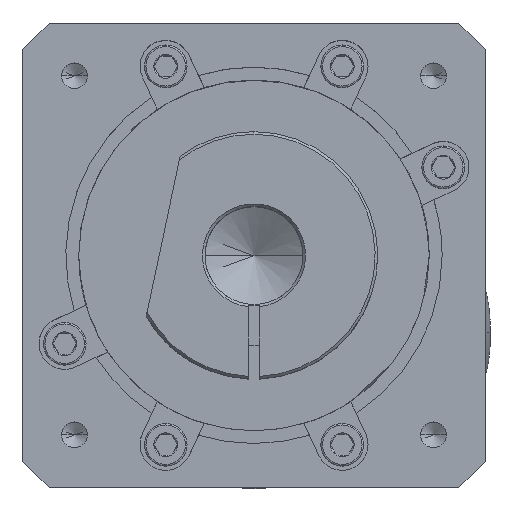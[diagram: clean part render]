
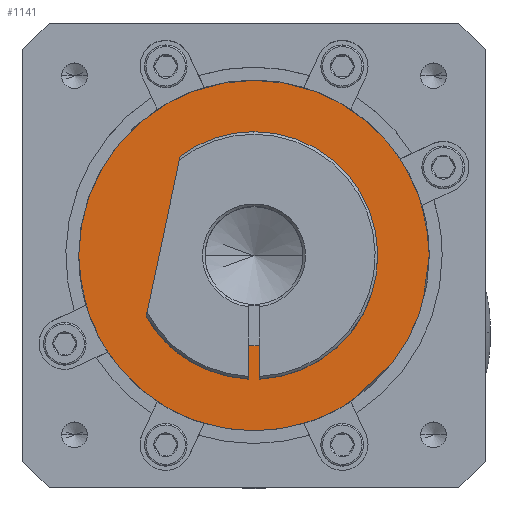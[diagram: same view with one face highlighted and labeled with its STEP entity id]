
A CAD part, top view. The second image highlights one B-rep face of the part: STEP entity #1141.
In plain terms, the highlighted planar face has unit normal (0, 0, 1).
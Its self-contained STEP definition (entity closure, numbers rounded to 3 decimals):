
#1141 = ADVANCED_FACE ( 'NONE', ( #7887, #1623 ), #1558, .T. ) ;
#1343 = CARTESIAN_POINT ( 'NONE',  ( -10.643, 0., 86.29 ) ) ;
#1465 = CARTESIAN_POINT ( 'NONE',  ( -10.643, 0., 86.29 ) ) ;
#1544 = VERTEX_POINT ( 'NONE', #2534 ) ;
#1558 = PLANE ( 'NONE',  #9305 ) ;
#1602 = ORIENTED_EDGE ( 'NONE', *, *, #13392, .T. ) ;
#1623 = FACE_OUTER_BOUND ( 'NONE', #8202, .T. ) ;
#1816 = EDGE_CURVE ( 'NONE', #9079, #1544, #12555, .T. ) ;
#2027 = CARTESIAN_POINT ( 'NONE',  ( -10.643, 0., 86.29 ) ) ;
#2150 = AXIS2_PLACEMENT_3D ( 'NONE', #2027, #10508, #3132 ) ;
#2430 = EDGE_CURVE ( 'NONE', #10704, #3916, #3033, .T. ) ;
#2534 = CARTESIAN_POINT ( 'NONE',  ( -28.143, 0., 86.29 ) ) ;
#2989 = AXIS2_PLACEMENT_3D ( 'NONE', #1465, #5759, #12174 ) ;
#3033 = CIRCLE ( 'NONE', #2150, 34. ) ;
#3132 = DIRECTION ( 'NONE',  ( 1., 0., 0. ) ) ;
#3199 = CARTESIAN_POINT ( 'NONE',  ( 23.357, 0., 86.29 ) ) ;
#3237 = ORIENTED_EDGE ( 'NONE', *, *, #2430, .T. ) ;
#3916 = VERTEX_POINT ( 'NONE', #3199 ) ;
#4579 = DIRECTION ( 'NONE',  ( 1., 0., 0. ) ) ;
#4728 = EDGE_CURVE ( 'NONE', #1544, #9079, #6972, .T. ) ;
#5402 = CARTESIAN_POINT ( 'NONE',  ( -10.643, 0., 86.29 ) ) ;
#5441 = DIRECTION ( 'NONE',  ( 0., 0., 1. ) ) ;
#5581 = DIRECTION ( 'NONE',  ( 1., 0., 0. ) ) ;
#5759 = DIRECTION ( 'NONE',  ( 0., 0., 1. ) ) ;
#6272 = CARTESIAN_POINT ( 'NONE',  ( 6.857, 0., 86.29 ) ) ;
#6514 = DIRECTION ( 'NONE',  ( 0., 0., 1. ) ) ;
#6764 = DIRECTION ( 'NONE',  ( 0., 0., 1. ) ) ;
#6934 = ORIENTED_EDGE ( 'NONE', *, *, #1816, .F. ) ;
#6972 = CIRCLE ( 'NONE', #10536, 17.5 ) ;
#7804 = CIRCLE ( 'NONE', #10694, 34. ) ;
#7887 = FACE_BOUND ( 'NONE', #11330, .T. ) ;
#8202 = EDGE_LOOP ( 'NONE', ( #1602, #3237 ) ) ;
#8987 = CARTESIAN_POINT ( 'NONE',  ( -10.643, 0., 86.29 ) ) ;
#9079 = VERTEX_POINT ( 'NONE', #6272 ) ;
#9305 = AXIS2_PLACEMENT_3D ( 'NONE', #8987, #6764, #12195 ) ;
#10508 = DIRECTION ( 'NONE',  ( 0., 0., 1. ) ) ;
#10536 = AXIS2_PLACEMENT_3D ( 'NONE', #1343, #5441, #5581 ) ;
#10694 = AXIS2_PLACEMENT_3D ( 'NONE', #5402, #6514, #4579 ) ;
#10704 = VERTEX_POINT ( 'NONE', #11884 ) ;
#11330 = EDGE_LOOP ( 'NONE', ( #13615, #6934 ) ) ;
#11884 = CARTESIAN_POINT ( 'NONE',  ( -44.643, 0., 86.29 ) ) ;
#12174 = DIRECTION ( 'NONE',  ( 1., 0., 0. ) ) ;
#12195 = DIRECTION ( 'NONE',  ( 1., 0., 0. ) ) ;
#12555 = CIRCLE ( 'NONE', #2989, 17.5 ) ;
#13392 = EDGE_CURVE ( 'NONE', #3916, #10704, #7804, .T. ) ;
#13615 = ORIENTED_EDGE ( 'NONE', *, *, #4728, .F. ) ;
